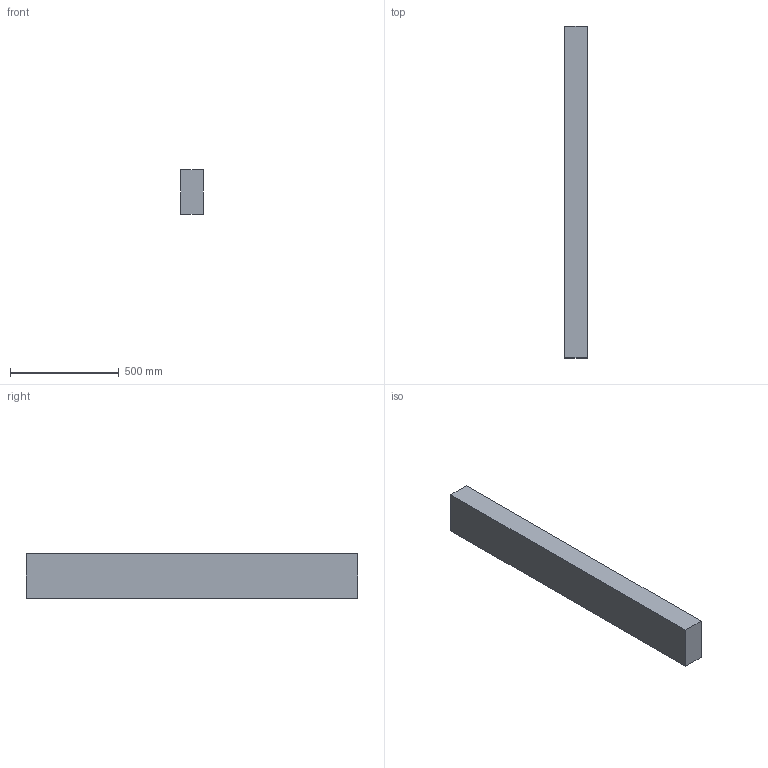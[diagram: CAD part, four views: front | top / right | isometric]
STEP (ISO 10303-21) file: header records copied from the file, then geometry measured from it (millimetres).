
FILE_DESCRIPTION(/* description */ (''),/* implementation_level */ '2;1');
FILE_NAME(/* name */ '4x8x60',/* time_stamp */ '2024-09-20T11:45:37-05:00',/* author */ (''),/* organization */ (''),/* preprocessor_version */ 'ST-DEVELOPER v19.2',/* originating_system */ 'Rhino 8.5',/* authorisation */ '');
FILE_SCHEMA (('CONFIG_CONTROL_DESIGN'));
Length unit declared in the file: inch
Products named in the file (1): Document
Bounding box: 101.6 x 1524 x 203.2 mm (x, y, z)
Volume: 31463162.9 mm3; surface area: 970320.6 mm2
Topology: 1 solids, 1 shells, 6 faces, 12 edges, 8 vertices
Faces by surface type: plane 6
Entity records: 226 total; most frequent: CARTESIAN_POINT 40, ORIENTED_EDGE 24, EDGE_CURVE 12, B_SPLINE_CURVE_WITH_KNOTS 12, DIRECTION 10, VERTEX_POINT 8, AXIS2_PLACEMENT_3D 8, ORGANIZATION 7
